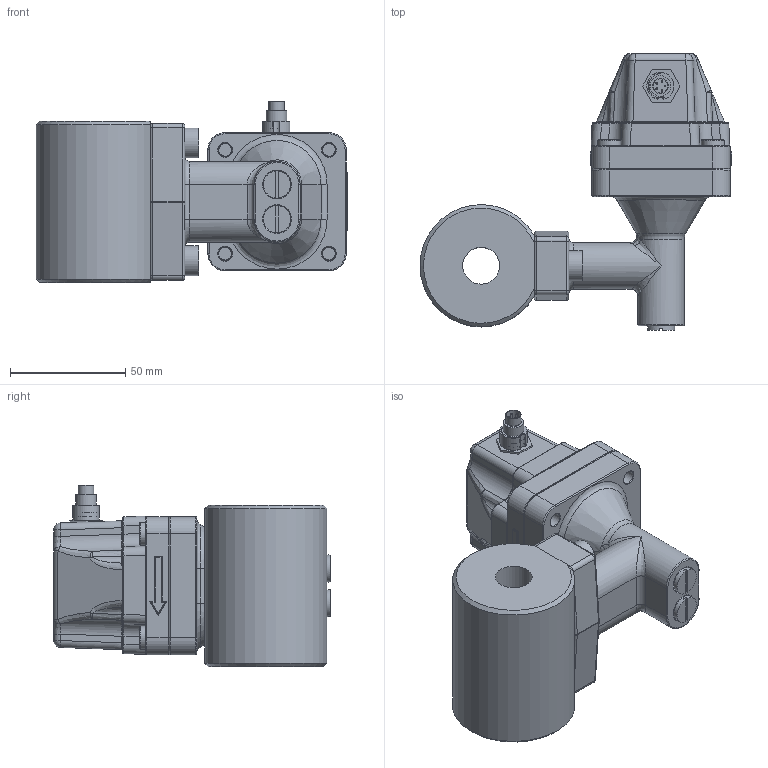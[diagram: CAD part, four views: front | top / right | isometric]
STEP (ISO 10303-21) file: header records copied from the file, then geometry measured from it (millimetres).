
FILE_DESCRIPTION(/* description */ ('Alibre Inc.'),/* implementation_level */ '2;1');
FILE_NAME(/* name */ 'export0',/* time_stamp */ '2012-11-14T15:42:14+01:00',/* author */ (''),/* organization */ (''),/* preprocessor_version */ 'ST-DEVELOPER v14',/* originating_system */ 'Alibre',/* authorisation */ '');
FILE_SCHEMA (('CONFIG_CONTROL_DESIGN'));
Length unit declared in the file: centimetre
Products named in the file (9): ID_1; ID_2; ID_3; ID_4; ID_5; ID_6
Bounding box: 135.25 x 120 x 78.5 mm (x, y, z)
Volume: 306929.4 mm3; surface area: 83189 mm2
Topology: 13 solids, 14 shells, 843 faces, 1841 edges, 1062 vertices
Faces by surface type: plane 268, cylinder 261, bspline 132, cone 92, torus 52, sphere 38
Full cylindrical faces by diameter (mm): 0.75 x5, 3.198 x4, 6 x16, 6.2 x1, 6.4 x4, 6.7 x1, 8 x4, 8.5 x2, 8.7 x2, 8.9 x1, 9.6 x4, 10 x4, 11 x4, 11.75 x2, 12 x2, 13 x2, 14 x2, 16 x1, 17.2 x2, 21.1 x2, 32 x1, 47 x1
Entity records: 45184 total; most frequent: CARTESIAN_POINT 29422, ORIENTED_EDGE 2982, DIRECTION 2909, EDGE_CURVE 1491, AXIS2_PLACEMENT_3D 1307, VERTEX_POINT 913, EDGE_LOOP 892, FACE_BOUND 892
